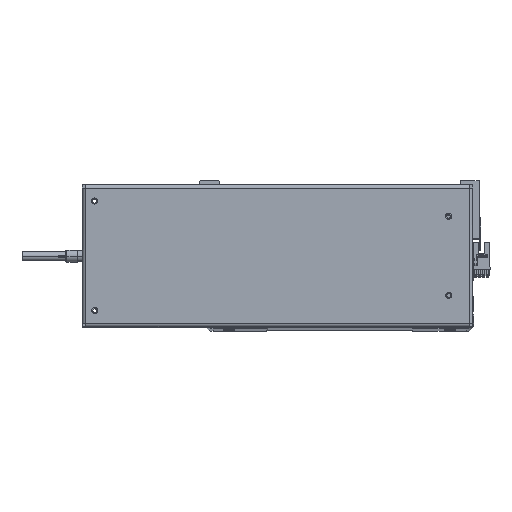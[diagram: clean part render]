
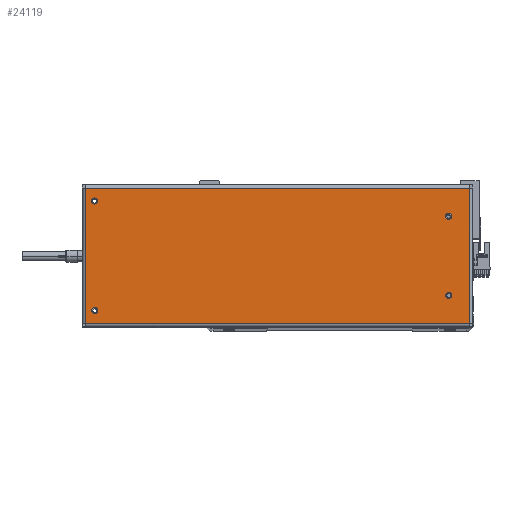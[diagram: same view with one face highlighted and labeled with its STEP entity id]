
A CAD part, top view. The second image highlights one B-rep face of the part: STEP entity #24119.
In plain terms, the highlighted planar face has unit normal (0, 0, 1).
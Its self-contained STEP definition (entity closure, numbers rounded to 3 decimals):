
#68 = DIRECTION ( 'NONE',  ( 0., 0., 1. ) ) ;
#458 = AXIS2_PLACEMENT_3D ( 'NONE', #28817, #560, #9772 ) ;
#560 = DIRECTION ( 'NONE',  ( 0., 0., 1. ) ) ;
#931 = EDGE_CURVE ( 'NONE', #16583, #22877, #33769, .T. ) ;
#2394 = CARTESIAN_POINT ( 'NONE',  ( -138., 32.5, 0. ) ) ;
#2536 = EDGE_LOOP ( 'NONE', ( #35167, #31987 ) ) ;
#3739 = FACE_BOUND ( 'NONE', #38804, .T. ) ;
#4188 = CARTESIAN_POINT ( 'NONE',  ( 148., 45., 0. ) ) ;
#4879 = VECTOR ( 'NONE', #13847, 1000. ) ;
#4923 = CARTESIAN_POINT ( 'NONE',  ( -157.6, 55.6, 0. ) ) ;
#5249 = EDGE_LOOP ( 'NONE', ( #38067, #17823, #9892, #39904 ) ) ;
#6045 = AXIS2_PLACEMENT_3D ( 'NONE', #19272, #22421, #34528 ) ;
#6145 = CIRCLE ( 'NONE', #25512, 2.5 ) ;
#6431 = DIRECTION ( 'NONE',  ( 1., 0., 0. ) ) ;
#6438 = DIRECTION ( 'NONE',  ( 0., -1., 0. ) ) ;
#6848 = ORIENTED_EDGE ( 'NONE', *, *, #931, .F. ) ;
#6944 = VECTOR ( 'NONE', #37006, 1000. ) ;
#7280 = VECTOR ( 'NONE', #6438, 1000. ) ;
#7378 = EDGE_CURVE ( 'NONE', #27330, #9505, #38201, .T. ) ;
#7503 = DIRECTION ( 'NONE',  ( 0., 0., 1. ) ) ;
#7533 = CARTESIAN_POINT ( 'NONE',  ( 157.6, 55.6, 0. ) ) ;
#7732 = AXIS2_PLACEMENT_3D ( 'NONE', #19499, #7503, #22658 ) ;
#8090 = DIRECTION ( 'NONE',  ( 0., 0., 1. ) ) ;
#9029 = VERTEX_POINT ( 'NONE', #4188 ) ;
#9214 = CARTESIAN_POINT ( 'NONE',  ( 153., -45., 0. ) ) ;
#9360 = VERTEX_POINT ( 'NONE', #9214 ) ;
#9505 = VERTEX_POINT ( 'NONE', #16555 ) ;
#9602 = CARTESIAN_POINT ( 'NONE',  ( 153., 45., 0. ) ) ;
#9772 = DIRECTION ( 'NONE',  ( 1., 0., 0. ) ) ;
#9892 = ORIENTED_EDGE ( 'NONE', *, *, #18069, .T. ) ;
#9985 = EDGE_CURVE ( 'NONE', #9360, #26458, #21358, .T. ) ;
#10010 = CARTESIAN_POINT ( 'NONE',  ( -143., -32.5, 0. ) ) ;
#10567 = EDGE_CURVE ( 'NONE', #22877, #16583, #33153, .T. ) ;
#10661 = AXIS2_PLACEMENT_3D ( 'NONE', #21488, #24623, #36726 ) ;
#10903 = DIRECTION ( 'NONE',  ( 0., 0., 1. ) ) ;
#11642 = ORIENTED_EDGE ( 'NONE', *, *, #37210, .F. ) ;
#12442 = DIRECTION ( 'NONE',  ( 0., 0., 1. ) ) ;
#12990 = AXIS2_PLACEMENT_3D ( 'NONE', #18699, #68, #21962 ) ;
#13847 = DIRECTION ( 'NONE',  ( 1., 0., 0. ) ) ;
#13939 = FACE_BOUND ( 'NONE', #14186, .T. ) ;
#14027 = DIRECTION ( 'NONE',  ( 1., 0., 0. ) ) ;
#14118 = EDGE_CURVE ( 'NONE', #33106, #9029, #29021, .T. ) ;
#14186 = EDGE_LOOP ( 'NONE', ( #6848, #36123 ) ) ;
#15688 = CARTESIAN_POINT ( 'NONE',  ( 157.6, -55.6, 0. ) ) ;
#15696 = LINE ( 'NONE', #15688, #33382 ) ;
#16555 = CARTESIAN_POINT ( 'NONE',  ( -157.6, -55.6, 0. ) ) ;
#16583 = VERTEX_POINT ( 'NONE', #2394 ) ;
#17185 = EDGE_CURVE ( 'NONE', #19260, #27330, #23531, .T. ) ;
#17462 = VERTEX_POINT ( 'NONE', #10010 ) ;
#17823 = ORIENTED_EDGE ( 'NONE', *, *, #22237, .T. ) ;
#18069 = EDGE_CURVE ( 'NONE', #29884, #19260, #15696, .T. ) ;
#18076 = CIRCLE ( 'NONE', #19957, 2.5 ) ;
#18699 = CARTESIAN_POINT ( 'NONE',  ( 150.5, -45., 0. ) ) ;
#19260 = VERTEX_POINT ( 'NONE', #7533 ) ;
#19272 = CARTESIAN_POINT ( 'NONE',  ( 150.5, 45., 0. ) ) ;
#19499 = CARTESIAN_POINT ( 'NONE',  ( -140.5, 32.5, 0. ) ) ;
#19793 = FACE_OUTER_BOUND ( 'NONE', #5249, .T. ) ;
#19957 = AXIS2_PLACEMENT_3D ( 'NONE', #26147, #10903, #14027 ) ;
#20247 = CARTESIAN_POINT ( 'NONE',  ( -157.7, -55.6, 0. ) ) ;
#20799 = DIRECTION ( 'NONE',  ( -1., 0., 0. ) ) ;
#20969 = EDGE_CURVE ( 'NONE', #26458, #9360, #36138, .T. ) ;
#21325 = VERTEX_POINT ( 'NONE', #32713 ) ;
#21358 = CIRCLE ( 'NONE', #12990, 2.5 ) ;
#21414 = DIRECTION ( 'NONE',  ( 0., 1., 0. ) ) ;
#21488 = CARTESIAN_POINT ( 'NONE',  ( -140.5, 32.5, 0. ) ) ;
#21962 = DIRECTION ( 'NONE',  ( 1., 0., 0. ) ) ;
#22237 = EDGE_CURVE ( 'NONE', #9505, #29884, #29706, .T. ) ;
#22421 = DIRECTION ( 'NONE',  ( 0., 0., 1. ) ) ;
#22658 = DIRECTION ( 'NONE',  ( 1., 0., 0. ) ) ;
#22877 = VERTEX_POINT ( 'NONE', #33562 ) ;
#23531 = LINE ( 'NONE', #24755, #6944 ) ;
#24119 = ADVANCED_FACE ( 'NONE', ( #3739, #13939, #36854, #36386, #19793 ), #36329, .F. ) ;
#24623 = DIRECTION ( 'NONE',  ( 0., 0., 1. ) ) ;
#24755 = CARTESIAN_POINT ( 'NONE',  ( 157.7, 55.6, 0. ) ) ;
#24975 = CARTESIAN_POINT ( 'NONE',  ( -157.6, 55.6, 0. ) ) ;
#25512 = AXIS2_PLACEMENT_3D ( 'NONE', #27302, #8090, #29851 ) ;
#25623 = AXIS2_PLACEMENT_3D ( 'NONE', #39483, #30428, #20799 ) ;
#26147 = CARTESIAN_POINT ( 'NONE',  ( -140.5, -32.5, 0. ) ) ;
#26458 = VERTEX_POINT ( 'NONE', #33879 ) ;
#26924 = ORIENTED_EDGE ( 'NONE', *, *, #34391, .F. ) ;
#27302 = CARTESIAN_POINT ( 'NONE',  ( 150.5, 45., 0. ) ) ;
#27330 = VERTEX_POINT ( 'NONE', #4923 ) ;
#28817 = CARTESIAN_POINT ( 'NONE',  ( -140.5, -32.5, 0. ) ) ;
#29021 = CIRCLE ( 'NONE', #6045, 2.5 ) ;
#29706 = LINE ( 'NONE', #20247, #4879 ) ;
#29851 = DIRECTION ( 'NONE',  ( 1., 0., 0. ) ) ;
#29884 = VERTEX_POINT ( 'NONE', #36280 ) ;
#30428 = DIRECTION ( 'NONE',  ( 0., 0., -1. ) ) ;
#30912 = EDGE_LOOP ( 'NONE', ( #39519, #11642 ) ) ;
#31108 = CARTESIAN_POINT ( 'NONE',  ( 150.5, -45., 0. ) ) ;
#31987 = ORIENTED_EDGE ( 'NONE', *, *, #20969, .F. ) ;
#32598 = CIRCLE ( 'NONE', #458, 2.5 ) ;
#32713 = CARTESIAN_POINT ( 'NONE',  ( -138., -32.5, 0. ) ) ;
#33106 = VERTEX_POINT ( 'NONE', #9602 ) ;
#33153 = CIRCLE ( 'NONE', #10661, 2.5 ) ;
#33382 = VECTOR ( 'NONE', #21414, 1000. ) ;
#33562 = CARTESIAN_POINT ( 'NONE',  ( -143., 32.5, 0. ) ) ;
#33734 = EDGE_CURVE ( 'NONE', #21325, #17462, #18076, .T. ) ;
#33769 = CIRCLE ( 'NONE', #7732, 2.5 ) ;
#33879 = CARTESIAN_POINT ( 'NONE',  ( 148., -45., 0. ) ) ;
#34391 = EDGE_CURVE ( 'NONE', #17462, #21325, #32598, .T. ) ;
#34528 = DIRECTION ( 'NONE',  ( 1., 0., 0. ) ) ;
#35167 = ORIENTED_EDGE ( 'NONE', *, *, #9985, .F. ) ;
#36123 = ORIENTED_EDGE ( 'NONE', *, *, #10567, .F. ) ;
#36138 = CIRCLE ( 'NONE', #39694, 2.5 ) ;
#36280 = CARTESIAN_POINT ( 'NONE',  ( 157.6, -55.6, 0. ) ) ;
#36329 = PLANE ( 'NONE',  #25623 ) ;
#36386 = FACE_BOUND ( 'NONE', #30912, .T. ) ;
#36726 = DIRECTION ( 'NONE',  ( 1., 0., 0. ) ) ;
#36854 = FACE_BOUND ( 'NONE', #2536, .T. ) ;
#37006 = DIRECTION ( 'NONE',  ( -1., 0., 0. ) ) ;
#37210 = EDGE_CURVE ( 'NONE', #9029, #33106, #6145, .T. ) ;
#37709 = ORIENTED_EDGE ( 'NONE', *, *, #33734, .F. ) ;
#38067 = ORIENTED_EDGE ( 'NONE', *, *, #7378, .T. ) ;
#38201 = LINE ( 'NONE', #24975, #7280 ) ;
#38804 = EDGE_LOOP ( 'NONE', ( #37709, #26924 ) ) ;
#39483 = CARTESIAN_POINT ( 'NONE',  ( 157.7, 58.5, 0. ) ) ;
#39519 = ORIENTED_EDGE ( 'NONE', *, *, #14118, .F. ) ;
#39694 = AXIS2_PLACEMENT_3D ( 'NONE', #31108, #12442, #6431 ) ;
#39904 = ORIENTED_EDGE ( 'NONE', *, *, #17185, .T. ) ;
